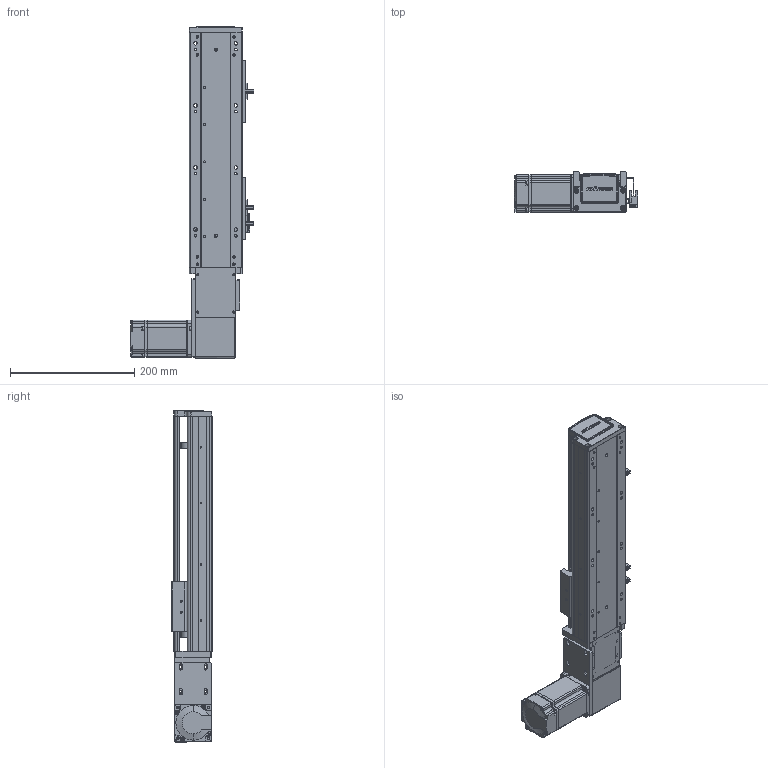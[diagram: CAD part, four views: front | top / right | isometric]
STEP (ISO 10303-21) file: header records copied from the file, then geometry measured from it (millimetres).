
FILE_DESCRIPTION (( 'STEP AP203' ), '1' );
FILE_NAME ('RY80-T-300-LK.SLDASM_200.step', '2021-03-01T01:57:47', ( '盈信电脑' ), ( '东莞市道滘镇水果街19号' ), 'SwSTEP 2.0', 'SolidWorks 2012', '' );
FILE_SCHEMA (( 'CONFIG_CONTROL_DESIGN' ));
Length unit declared in the file: millimetre
Products named in the file (19): RY80-T-300-LK.SLDASM_200; RY80-T萇儂假蚾啣; RY80-T-M4蹟翐; 滅袉蝶18-10; 侂狟200W萇儂; 1; RY80-T肮祭謫俋欶; RY80-T翋肮祭謫裔啣; RY80-T肮祭湍揤輸2; RY80-T粣創揤踡輸; RY80-T肮祭湍揤輸1; RY80-T-翋肮祭謫釱; RY80俋离覜茼え; 672嫖萇羲壽假蚾釱; 覜茼ん672; RY80-T綴裔啣; RY80-T-300-LK倰第奻裔啣_200; RY80-T肮祭謫臏賑輸; RY80-T-300-LK倰第菁釱_200
Assembly tree (24 placements, depth 3):
  RY80-T-300-LK.SLDASM_200
    RY80-T-300-LK倰第菁釱_200
    RY80-T肮祭謫臏賑輸
    RY80-T-300-LK倰第奻裔啣_200
    RY80-T綴裔啣
    672嫖萇羲壽假蚾釱  x2
    覜茼ん672  x3
    RY80俋离覜茼え
    RY80-T-翋肮祭謫釱
    RY80-T肮祭湍揤輸1
    RY80-T肮祭湍揤輸2
    RY80-T粣創揤踡輸
    RY80-T翋肮祭謫裔啣  x2
    滅袉蝶18-10  x2
    侂狟200W萇儂
      1
    RY80-T肮祭謫俋欶
    RY80-T萇儂假蚾啣
    RY80-T-M4蹟翐  x2
Bounding box: 198.7 x 65 x 535 mm (x, y, z)
Volume: 1143655.6 mm3; surface area: 442469.7 mm2
Topology: 23 solids, 23 shells, 2325 faces, 6377 edges, 4141 vertices
Faces by surface type: plane 1295, cylinder 829, cone 145, bspline 56
Entity records: 71507 total; most frequent: CARTESIAN_POINT 16539, ORIENTED_EDGE 11198, DIRECTION 10646, EDGE_CURVE 5599, VERTEX_POINT 3682, LINE 3580, VECTOR 3580, AXIS2_PLACEMENT_3D 3533
